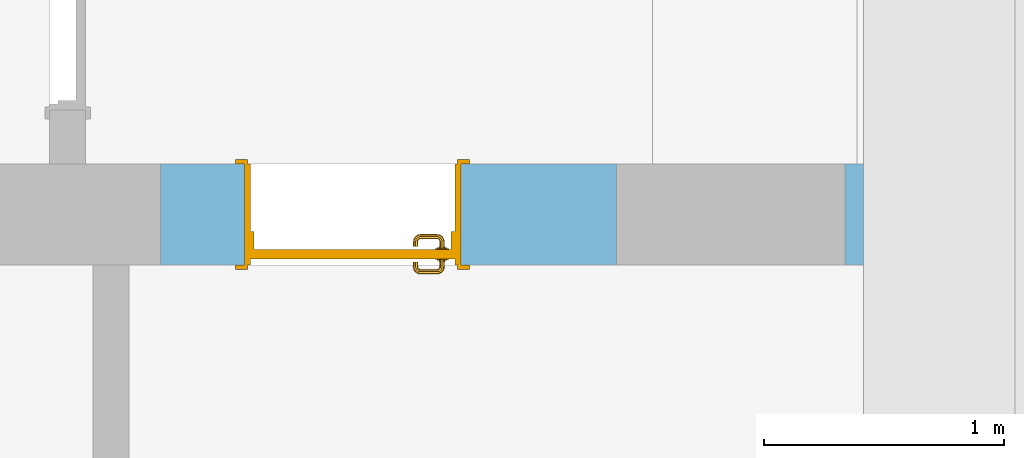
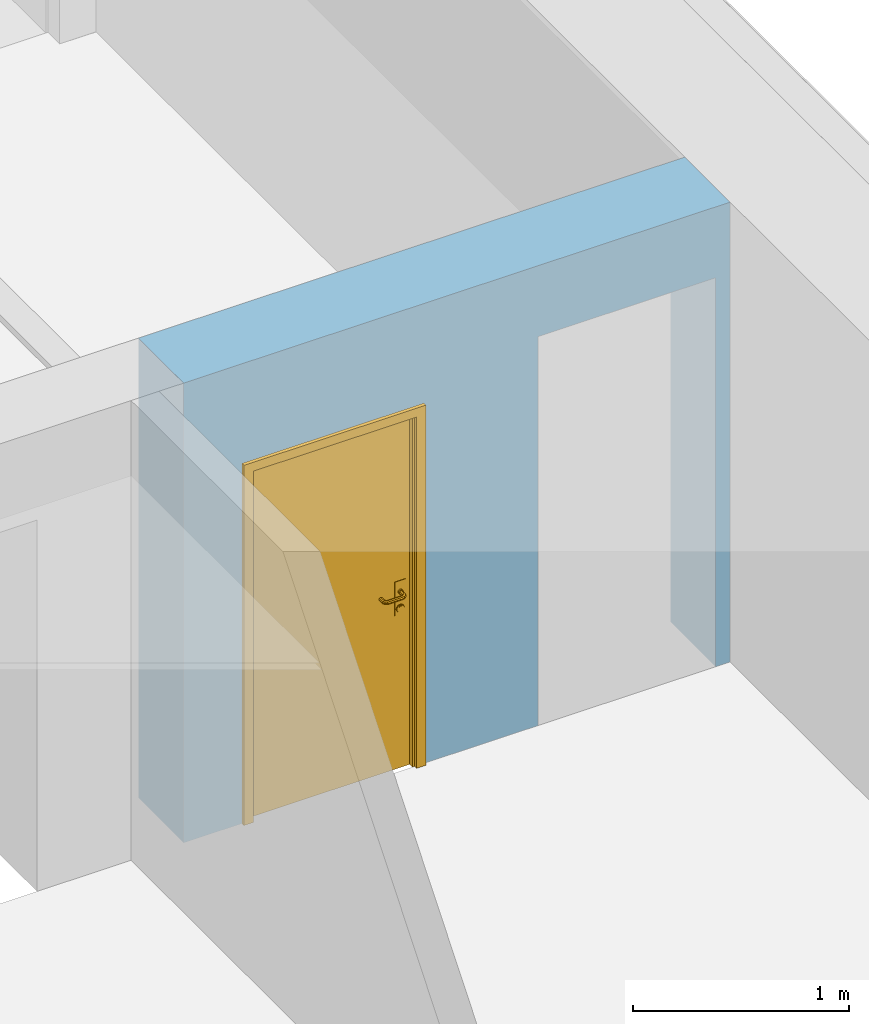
# One storey, part 60 of 127: 1 door, 1 opening, plus 1 element that does not belong to this part.
"""IFC2X3 building model written with IfcOpenShell, lengths in millimetres."""

from ifc_helpers import new_model, entity, si_unit, converted_unit, derived_unit, money_unit, direction, frame, origin_with_axes, origin_2d_with_axis, place, context, subcontext, project, spatial, polyline, rectangle, outline, extrude, boolean, open_shell, faceted_brep, surface_model, material, type_object, element, fill, save


model = new_model("IFC2X3")

# Units and contexts
model_context = context("Model", 3, precision=1e-05, world=origin_with_axes(), true_north=direction((0.0, 1.0)))
body_context = subcontext(model_context, "Body", "Model", "MODEL_VIEW")
ifc_project = project(units=[si_unit("LENGTHUNIT", "METRE", prefix="MILLI"), si_unit("AREAUNIT", "SQUARE_METRE"), si_unit("VOLUMEUNIT", "CUBIC_METRE"), converted_unit("PLANEANGLEUNIT", "DEGREE", entity("IfcPlaneAngleMeasure", 0.0174532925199), si_unit("PLANEANGLEUNIT", "RADIAN"), dimensions=[0, 0, 0, 0, 0, 0, 0]), si_unit("SOLIDANGLEUNIT", "STERADIAN"), money_unit("EUR"), converted_unit("TIMEUNIT", "Year", entity("IfcTimeMeasure", 31556926.0), si_unit("TIMEUNIT", "SECOND"), dimensions=[0, 0, 1, 0, 0, 0, 0]), si_unit("MASSUNIT", "GRAM", prefix="KILO"), si_unit("THERMODYNAMICTEMPERATUREUNIT", "DEGREE_CELSIUS"), si_unit("LUMINOUSINTENSITYUNIT", "LUMEN"), si_unit("ENERGYUNIT", "JOULE", prefix="MEGA"), derived_unit("THERMALCONDUCTANCEUNIT", [(si_unit("POWERUNIT", "WATT"), 1), (si_unit("LENGTHUNIT", "METRE"), -1), (si_unit("THERMODYNAMICTEMPERATUREUNIT", "KELVIN"), -1)]), derived_unit("SPECIFICHEATCAPACITYUNIT", [(si_unit("ENERGYUNIT", "JOULE"), 1), (si_unit("MASSUNIT", "GRAM", prefix="KILO"), -1), (si_unit("THERMODYNAMICTEMPERATUREUNIT", "KELVIN"), -1)]), derived_unit("MASSDENSITYUNIT", [(si_unit("MASSUNIT", "GRAM", prefix="KILO"), 1), (si_unit("VOLUMEUNIT", "CUBIC_METRE"), -1)])], contexts=[model_context])

# Site, building, storey
site_placement = place(None, origin_with_axes())
site = spatial("IfcSite", under=ifc_project, at=site_placement, Name="Site", CompositionType="ELEMENT")
building_placement = place(site_placement, origin_with_axes())
building = spatial("IfcBuilding", under=site, at=building_placement, Name="Building", CompositionType="ELEMENT")
storey_placement = place(building_placement, origin_with_axes())
storey = spatial("IfcBuildingStorey", under=building, at=storey_placement, Name="1 KORRUS", CompositionType="ELEMENT", Elevation=0.0)

# Wall, opening, door
ifc_material = material(Name="Kivi -Ol.Olev Konstruktsioon")
wall_type = type_object("IfcWallType", Name="SW - 022", PredefinedType="NOTDEFINED")
wall_placement = place(storey_placement, frame((43567.7374192, 65636.3690561, 0.0), z_axis=(0.0, 0.0, 1.0), x_axis=(-1.0, 0.0, 0.0)))
wall = element("IfcWall", 1, at=wall_placement, inside=storey, type_object=wall_type, material=ifc_material, Name="ol.olev ss 420", context=body_context, shape_type="CSG", body=[
    boolean("DIFFERENCE", boolean("DIFFERENCE", extrude(outline(polyline([(-170.001301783, 0.0), (3552.88674047, 0.0), (3552.88674047, 420.0), (-170.001301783, 420.0), (-170.001301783, 0.0)])), origin_with_axes(), (0.0, 0.0, 1.0), 2600.0), faceted_brep([(1657.27493251, -1.81898940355e-09, 0.0), (1657.27493251, -1.81898940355e-09, 2200.0), (707.274932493, -1.81898940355e-09, 2200.0), (707.274932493, -1.81898940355e-09, 0.0), (1657.27493251, 419.999999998, 0.0), (1657.27493251, 419.999999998, 2200.0), (707.274932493, 419.999999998, 2200.0), (707.274932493, 419.999999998, 0.0)], [[[0, 1, 2, 3]], [[1, 0, 4, 5]], [[2, 1, 5, 6]], [[3, 2, 6, 7]], [[4, 0, 3, 7]], [[5, 4, 7, 6]]])), faceted_brep([(630.000000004, 0.0, 0.0), (630.000000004, 0.0, 2600.0), (-170.001301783, 0.0, 2600.0), (-170.001301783, 0.0, 0.0), (629.998698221, 420.0, 2600.0), (629.998698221, 420.0, 0.0), (-170.001301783, 420.0, 2600.0), (-170.001301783, 420.0, 0.0)], [[[0, 1, 2, 3]], [[4, 1, 0, 5]], [[1, 4, 6, 2]], [[6, 7, 3, 2]], [[5, 0, 3, 7]], [[4, 5, 7, 6]]])),
])
opening_placement = place(wall_placement, frame((2754.27520312, 0.0, 0.0), z_axis=(0.0, 0.0, 1.0), x_axis=(1.0, 0.0, 0.0)))
opening = element("IfcOpeningElement", 2, at=opening_placement, cuts=wall, Name="Siseuks * Door 22", context=body_context, shape_type="SweptSolid", body=[
    extrude(rectangle(XDim=900.0, YDim=2000.0, at=origin_2d_with_axis()), frame((0.0, 280.0, 1000.0), z_axis=(0.0, 1.0, 0.0), x_axis=(1.0, 0.0, 0.0)), (0.0, 0.0, -1.0), 700.0),
    extrude(rectangle(XDim=900.0, YDim=2000.0, at=origin_2d_with_axis()), frame((0.0, 280.0, 1000.0), z_axis=(0.0, -1.0, 0.0), x_axis=(1.0, 0.0, 0.0)), (0.0, 0.0, -1.0), 560.0),
    extrude(rectangle(XDim=974.0, YDim=2037.0, at=origin_2d_with_axis()), frame((0.0, 420.0, 1018.5), z_axis=(0.0, -1.0, 0.0), x_axis=(1.0, 0.0, 0.0)), (0.0, 0.0, -1.0), 700.0),
    extrude(rectangle(XDim=974.0, YDim=2037.0, at=origin_2d_with_axis()), frame((0.0, 0.0, 1018.5), z_axis=(0.0, 1.0, 0.0), x_axis=(1.0, 0.0, 0.0)), (0.0, 0.0, -1.0), 700.0),
])
door_style = type_object("IfcDoorStyle", Name="SU-A115   900×2\xa0000", ConstructionType="NOTDEFINED", OperationType="SINGLE_SWING_RIGHT", ParameterTakesPrecedence=False, Sizeable=False)
door_placement = place(opening_placement, frame((-450.0, 0.0, 0.0), z_axis=(0.0, 0.0, 1.0), x_axis=(1.0, 0.0, 0.0)))
door = element("IfcDoor", 3, at=door_placement, inside=storey, type_object=door_style, Name="Siseuks * Door 22", OverallHeight=2000.0, OverallWidth=900.0, context=body_context, shape_type="SurfaceModel", body=[
    faceted_brep([(0.0, 395.0, 0.0), (0.0, 420.0, 0.0), (25.0000000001, 420.0, 0.0), (25.0000000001, 395.0, 0.0), (0.0, 395.0, 2000.0), (0.0, 420.0, 2000.0), (25.0000000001, 420.0, 1975.0), (25.0000000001, 395.0, 1975.0)], [[[0, 1, 2, 3]], [[4, 5, 1, 0]], [[1, 5, 6, 2]], [[3, 2, 6, 7]], [[0, 3, 7, 4]], [[7, 6, 5, 4]]]),
    faceted_brep([(900.0, 395.0, 2000.0), (900.0, 420.0, 2000.0), (875.0, 420.0, 1975.0), (875.0, 395.0, 1975.0), (900.0, 395.0, 0.0), (900.0, 420.0, 0.0), (875.0, 420.0, 0.0), (875.0, 395.0, 0.0)], [[[0, 1, 2, 3]], [[4, 5, 1, 0]], [[1, 5, 6, 2]], [[3, 2, 6, 7]], [[0, 3, 7, 4]], [[7, 6, 5, 4]]]),
    faceted_brep([(25.0000000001, 395.0, 1975.0), (25.0000000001, 420.0, 1975.0), (875.0, 420.0, 1975.0), (875.0, 395.0, 1975.0), (0.0, 395.0, 2000.0), (0.0, 420.0, 2000.0), (900.0, 420.0, 2000.0), (900.0, 395.0, 2000.0)], [[[0, 1, 2, 3]], [[4, 5, 1, 0]], [[1, 5, 6, 2]], [[3, 2, 6, 7]], [[0, 3, 7, 4]], [[7, 6, 5, 4]]]),
    faceted_brep([(-36.9999999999, 439.0, 0.0), (13.0, 439.0, 0.0), (13.0, 420.0, 0.0), (-36.9999999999, 420.0, 0.0), (-36.9999999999, 439.0, 2037.0), (13.0, 439.0, 1987.0), (13.0, 420.0, 1987.0), (-36.9999999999, 420.0, 2037.0)], [[[0, 1, 2, 3]], [[0, 4, 5, 1]], [[1, 5, 6, 2]], [[3, 2, 6, 7]], [[4, 0, 3, 7]], [[5, 4, 7, 6]]]),
    faceted_brep([(937.0, 439.0, 2037.0), (887.0, 439.0, 1987.0), (887.0, 420.0, 1987.0), (937.0, 420.0, 2037.0), (937.0, 439.0, 0.0), (887.0, 439.0, 0.0), (887.0, 420.0, 0.0), (937.0, 420.0, 0.0)], [[[0, 1, 2, 3]], [[0, 4, 5, 1]], [[1, 5, 6, 2]], [[3, 2, 6, 7]], [[4, 0, 3, 7]], [[5, 4, 7, 6]]]),
    faceted_brep([(-36.9999999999, 439.0, 2037.0), (13.0, 439.0, 1987.0), (13.0, 420.0, 1987.0), (-36.9999999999, 420.0, 2037.0), (937.0, 439.0, 2037.0), (887.0, 439.0, 1987.0), (887.0, 420.0, 1987.0), (937.0, 420.0, 2037.0)], [[[0, 1, 2, 3]], [[0, 4, 5, 1]], [[1, 5, 6, 2]], [[3, 2, 6, 7]], [[4, 0, 3, 7]], [[5, 4, 7, 6]]]),
    faceted_brep([(0.0, 280.000000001, 0.0), (25.0000000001, 280.000000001, 0.0), (25.0000000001, 0.0, 0.0), (0.0, 0.0, 0.0), (0.0, 280.000000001, 2000.0), (25.0000000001, 280.000000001, 1975.0), (25.0000000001, 0.0, 1975.0), (0.0, 0.0, 2000.0)], [[[0, 1, 2, 3]], [[0, 4, 5, 1]], [[1, 5, 6, 2]], [[3, 2, 6, 7]], [[4, 0, 3, 7]], [[5, 4, 7, 6]]]),
    faceted_brep([(900.0, 280.000000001, 2000.0), (875.0, 280.000000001, 1975.0), (875.0, 0.0, 1975.0), (900.0, 0.0, 2000.0), (900.0, 280.000000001, 0.0), (875.0, 280.000000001, 0.0), (875.0, 0.0, 0.0), (900.0, 0.0, 0.0)], [[[0, 1, 2, 3]], [[0, 4, 5, 1]], [[1, 5, 6, 2]], [[3, 2, 6, 7]], [[4, 0, 3, 7]], [[5, 4, 7, 6]]]),
    faceted_brep([(0.0, 280.000000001, 2000.0), (25.0000000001, 280.000000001, 1975.0), (25.0000000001, 0.0, 1975.0), (0.0, 0.0, 2000.0), (900.0, 280.000000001, 2000.0), (875.0, 280.000000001, 1975.0), (875.0, 0.0, 1975.0), (900.0, 0.0, 2000.0)], [[[0, 1, 2, 3]], [[0, 4, 5, 1]], [[1, 5, 6, 2]], [[3, 2, 6, 7]], [[4, 0, 3, 7]], [[5, 4, 7, 6]]]),
    faceted_brep([(-36.9999999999, -18.9999999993, 0.0), (-36.9999999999, 0.0, 0.0), (13.0, 0.0, 0.0), (13.0, -18.9999999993, 0.0), (-36.9999999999, -18.9999999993, 2037.0), (-36.9999999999, 0.0, 2037.0), (13.0, 0.0, 1987.0), (13.0, -18.9999999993, 1987.0)], [[[0, 1, 2, 3]], [[4, 5, 1, 0]], [[1, 5, 6, 2]], [[3, 2, 6, 7]], [[0, 3, 7, 4]], [[7, 6, 5, 4]]]),
    faceted_brep([(937.0, -18.9999999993, 2037.0), (937.0, 0.0, 2037.0), (887.0, 0.0, 1987.0), (887.0, -18.9999999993, 1987.0), (937.0, -18.9999999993, 0.0), (937.0, 0.0, 0.0), (887.0, 0.0, 0.0), (887.0, -18.9999999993, 0.0)], [[[0, 1, 2, 3]], [[4, 5, 1, 0]], [[1, 5, 6, 2]], [[3, 2, 6, 7]], [[0, 3, 7, 4]], [[7, 6, 5, 4]]]),
    faceted_brep([(-36.9999999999, -18.9999999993, 2037.0), (-36.9999999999, 0.0, 2037.0), (13.0, 0.0, 1987.0), (13.0, -18.9999999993, 1987.0), (937.0, -18.9999999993, 2037.0), (937.0, 0.0, 2037.0), (887.0, 0.0, 1987.0), (887.0, -18.9999999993, 1987.0)], [[[0, 1, 2, 3]], [[4, 5, 1, 0]], [[1, 5, 6, 2]], [[3, 2, 6, 7]], [[0, 3, 7, 4]], [[7, 6, 5, 4]]]),
    faceted_brep([(40.0000000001, 355.0, 0.0), (40.0000000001, 355.0, 1960.0), (40.0000000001, 280.000000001, 1960.0), (40.0000000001, 280.000000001, 0.0), (28.0, 355.0, 1960.0), (28.0, 355.0, 0.0), (28.0, 395.0, 1960.0), (0.0, 395.0, 1960.0), (0.0, 280.000000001, 1960.0), (0.0, 280.000000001, 0.0), (0.0, 395.0, 0.0), (28.0, 395.0, 0.0)], [[[0, 1, 2, 3]], [[4, 1, 0, 5]], [[4, 6, 7, 8, 2, 1]], [[3, 2, 8, 9]], [[5, 0, 3, 9, 10, 11]], [[6, 4, 5, 11]], [[6, 11, 10, 7]], [[10, 9, 8, 7]]]),
    faceted_brep([(872.0, 355.0, 1960.0), (860.0, 355.0, 1960.0), (860.0, 280.000000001, 1960.0), (900.0, 280.000000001, 1960.0), (900.0, 395.0, 1960.0), (872.0, 395.0, 1960.0), (872.0, 355.0, 0.0), (860.0, 355.0, 0.0), (860.0, 280.000000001, 0.0), (900.0, 280.000000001, 0.0), (900.0, 395.0, 0.0), (872.0, 395.0, 0.0)], [[[0, 1, 2, 3, 4, 5]], [[1, 0, 6, 7]], [[1, 7, 8, 2]], [[3, 2, 8, 9]], [[4, 3, 9, 10]], [[11, 5, 4, 10]], [[0, 5, 11, 6]], [[6, 11, 10, 9, 8, 7]]]),
    faceted_brep([(28.0, 395.0, 1972.0), (28.0, 395.0, 1960.0), (0.0, 395.0, 1960.0), (0.0, 395.0, 2000.0), (900.0, 395.0, 2000.0), (900.0, 395.0, 1960.0), (872.0, 395.0, 1960.0), (872.0, 395.0, 1972.0), (28.0, 355.0, 1972.0), (28.0, 355.0, 1960.0), (40.0000000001, 355.0, 1960.0), (40.0000000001, 280.000000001, 1960.0), (0.0, 280.000000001, 1960.0), (0.0, 280.000000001, 2000.0), (900.0, 280.000000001, 2000.0), (900.0, 280.000000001, 1960.0), (872.0, 355.0, 1960.0), (860.0, 280.000000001, 1960.0), (860.0, 355.0, 1960.0), (872.0, 355.0, 1972.0)], [[[0, 1, 2, 3, 4, 5, 6, 7]], [[1, 0, 8, 9]], [[9, 10, 11, 12, 2, 1]], [[2, 12, 13, 3]], [[3, 13, 14, 4]], [[4, 14, 15, 5]], [[16, 6, 5, 15, 17, 18]], [[7, 6, 16, 19]], [[0, 7, 19, 8]], [[16, 18, 10, 9, 8, 19]], [[10, 18, 17, 11]], [[17, 15, 14, 13, 12, 11]]]),
    faceted_brep([(49.5000000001, 355.0, 1060.0), (49.5000000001, 352.000000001, 1060.0), (106.5, 352.000000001, 1060.0), (106.5, 355.0, 1060.0), (49.5000000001, 355.0, 870.0), (49.5000000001, 352.000000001, 870.0), (106.5, 352.000000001, 870.0), (106.5, 355.0, 870.0)], [[[0, 1, 2, 3]], [[4, 5, 1, 0]], [[1, 5, 6, 2]], [[3, 2, 6, 7]], [[0, 3, 7, 4]], [[7, 6, 5, 4]]]),
    surface_model("IfcShellBasedSurfaceModel", [(88.0000000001, 342.000000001, 1000.0), (88.0000000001, 322.984914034, 1000.0), (85.0710678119, 322.696439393, 992.928932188), (85.0710678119, 342.000000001, 992.928932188), (85.0710678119, 342.000000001, 1007.07106781), (85.0710678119, 322.696439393, 1007.07106781), (88.9422033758, 318.248137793, 1000.0), (86.1832095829, 317.105325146, 992.928932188), (78.0000000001, 322.0, 990.0), (78.0000000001, 342.000000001, 990.0), (78.0000000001, 342.000000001, 1010.0), (78.0000000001, 322.0, 1010.0), (86.1832095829, 317.105325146, 1007.07106781), (91.0674625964, 315.067462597, 1000.0), (88.9558201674, 312.955820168, 992.928932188), (79.5224093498, 314.346331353, 990.0), (70.9289321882, 321.303560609, 992.928932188), (70.9289321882, 342.000000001, 992.928932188), (70.9289321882, 342.000000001, 1007.07106781), (70.9289321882, 321.303560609, 1007.07106781), (79.5224093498, 314.346331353, 1010.0), (88.9558201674, 312.955820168, 1007.07106781), (94.2481377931, 312.942203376, 1000.0), (93.1053251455, 310.183209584, 992.928932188), (83.8578643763, 307.857864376, 990.0), (72.8616091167, 311.58733756, 992.928932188), (68.0000000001, 321.015085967, 1000.0), (68.0000000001, 342.000000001, 1000.0), (72.8616091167, 311.58733756, 1007.07106781), (83.8578643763, 307.857864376, 1010.0), (93.1053251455, 310.183209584, 1007.07106781), (98.9849140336, 312.000000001, 1000.0), (98.696439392, 309.071067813, 992.928932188), (90.3463313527, 303.52240935, 990.0), (78.7599085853, 302.759908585, 992.928932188), (70.1026153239, 310.444524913, 1000.0), (78.7599085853, 302.759908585, 1007.07106781), (90.3463313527, 303.52240935, 1010.0), (98.696439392, 309.071067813, 1007.07106781), (167.015085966, 312.000000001, 1000.0), (167.303560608, 309.071067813, 992.928932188), (98.0000000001, 302.000000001, 990.0), (87.58733756, 296.861609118, 992.928932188), (76.6482661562, 300.648266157, 1000.0), (87.58733756, 296.861609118, 1007.07106781), (98.0000000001, 302.000000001, 1010.0), (167.303560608, 309.071067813, 1007.07106781), (171.751862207, 312.942203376, 1000.0), (172.894674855, 310.183209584, 992.928932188), (168.0, 302.000000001, 990.0), (97.303560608, 294.928932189, 992.928932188), (86.4445249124, 294.102615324, 1000.0), (97.303560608, 294.928932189, 1007.07106781), (168.0, 302.000000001, 1010.0), (172.894674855, 310.183209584, 1007.07106781), (174.932537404, 315.067462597, 1000.0), (177.044179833, 312.955820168, 992.928932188), (175.653668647, 303.52240935, 990.0), (168.696439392, 294.928932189, 992.928932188), (97.0150859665, 292.0, 1000.0), (168.696439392, 294.928932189, 1007.07106781), (175.653668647, 303.52240935, 1010.0), (177.044179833, 312.955820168, 1007.07106781), (177.057796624, 318.248137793, 1000.0), (179.816790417, 317.105325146, 992.928932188), (182.142135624, 307.857864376, 990.0), (178.41266244, 296.861609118, 992.928932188), (168.984914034, 292.0, 1000.0), (178.41266244, 296.861609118, 1007.07106781), (182.142135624, 307.857864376, 1010.0), (179.816790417, 317.105325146, 1007.07106781), (178.0, 322.984914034, 1000.0), (180.928932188, 322.696439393, 992.928932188), (186.47759065, 314.346331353, 990.0), (187.240091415, 302.759908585, 992.928932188), (179.555475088, 294.102615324, 1000.0), (187.240091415, 302.759908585, 1007.07106781), (186.47759065, 314.346331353, 1010.0), (180.928932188, 322.696439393, 1007.07106781), (178.0, 342.000000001, 1000.0), (180.928932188, 342.000000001, 992.928932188), (188.0, 322.0, 990.0), (193.138390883, 311.58733756, 992.928932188), (189.351733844, 300.648266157, 1000.0), (193.138390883, 311.58733756, 1007.07106781), (188.0, 322.0, 1010.0), (180.928932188, 342.000000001, 1007.07106781), (188.0, 342.000000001, 1010.0), (195.071067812, 342.000000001, 1007.07106781), (198.0, 342.000000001, 1000.0), (195.071067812, 342.000000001, 992.928932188), (188.0, 342.000000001, 990.0), (195.071067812, 321.303560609, 992.928932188), (195.897384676, 310.444524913, 1000.0), (195.071067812, 321.303560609, 1007.07106781), (198.0, 321.015085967, 1000.0)], [open_shell([[[0, 1, 2, 3]], [[4, 5, 1, 0]], [[1, 6, 7, 2]], [[3, 2, 8, 9]], [[10, 11, 5, 4]], [[5, 12, 6, 1]], [[6, 13, 14, 7]], [[2, 7, 15, 8]], [[9, 8, 16, 17]], [[18, 19, 11, 10]], [[11, 20, 12, 5]], [[12, 21, 13, 6]], [[13, 22, 23, 14]], [[7, 14, 24, 15]], [[8, 15, 25, 16]], [[17, 16, 26, 27]], [[27, 26, 19, 18]], [[19, 28, 20, 11]], [[20, 29, 21, 12]], [[21, 30, 22, 13]], [[22, 31, 32, 23]], [[14, 23, 33, 24]], [[15, 24, 34, 25]], [[16, 25, 35, 26]], [[26, 35, 28, 19]], [[28, 36, 29, 20]], [[29, 37, 30, 21]], [[30, 38, 31, 22]], [[31, 39, 40, 32]], [[23, 32, 41, 33]], [[24, 33, 42, 34]], [[25, 34, 43, 35]], [[35, 43, 36, 28]], [[36, 44, 37, 29]], [[37, 45, 38, 30]], [[38, 46, 39, 31]], [[39, 47, 48, 40]], [[32, 40, 49, 41]], [[33, 41, 50, 42]], [[34, 42, 51, 43]], [[43, 51, 44, 36]], [[44, 52, 45, 37]], [[45, 53, 46, 38]], [[46, 54, 47, 39]], [[47, 55, 56, 48]], [[40, 48, 57, 49]], [[41, 49, 58, 50]], [[42, 50, 59, 51]], [[51, 59, 52, 44]], [[52, 60, 53, 45]], [[53, 61, 54, 46]], [[54, 62, 55, 47]], [[55, 63, 64, 56]], [[48, 56, 65, 57]], [[49, 57, 66, 58]], [[50, 58, 67, 59]], [[59, 67, 60, 52]], [[60, 68, 61, 53]], [[61, 69, 62, 54]], [[62, 70, 63, 55]], [[63, 71, 72, 64]], [[56, 64, 73, 65]], [[57, 65, 74, 66]], [[58, 66, 75, 67]], [[67, 75, 68, 60]], [[68, 76, 69, 61]], [[69, 77, 70, 62]], [[70, 78, 71, 63]], [[71, 79, 80, 72]], [[64, 72, 81, 73]], [[65, 73, 82, 74]], [[66, 74, 83, 75]], [[75, 83, 76, 68]], [[76, 84, 77, 69]], [[77, 85, 78, 70]], [[78, 86, 79, 71]], [[79, 86, 87, 88, 89, 90, 91, 80]], [[72, 80, 91, 81]], [[73, 81, 92, 82]], [[74, 82, 93, 83]], [[83, 93, 84, 76]], [[84, 94, 85, 77]], [[85, 87, 86, 78]], [[94, 88, 87, 85]], [[95, 89, 88, 94]], [[92, 90, 89, 95]], [[81, 91, 90, 92]], [[82, 92, 95, 93]], [[93, 95, 94, 84]]])]),
    faceted_brep([(88.3923048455, 342.000000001, 994.0), (89.2583302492, 352.000000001, 993.5), (91.0, 352.000000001, 1000.0), (90.0, 342.000000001, 1000.0), (84.0000000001, 342.000000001, 989.607695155), (84.5, 352.000000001, 988.741669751), (78.0000000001, 352.000000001, 987.0), (71.5, 352.000000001, 988.741669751), (66.7416697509, 352.000000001, 993.5), (65.0000000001, 352.000000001, 1000.0), (66.7416697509, 352.000000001, 1006.5), (71.5, 352.000000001, 1011.25833025), (78.0000000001, 352.000000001, 1013.0), (84.5, 352.000000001, 1011.25833025), (89.2583302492, 352.000000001, 1006.5), (88.3923048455, 342.000000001, 1006.0), (84.0000000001, 342.000000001, 1010.39230485), (78.0000000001, 342.000000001, 1012.0), (72.0, 342.000000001, 1010.39230485), (67.6076951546, 342.000000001, 1006.0), (66.0, 342.000000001, 1000.0), (67.6076951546, 342.000000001, 994.0), (72.0, 342.000000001, 989.607695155), (78.0000000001, 342.000000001, 988.0)], [[[0, 1, 2, 3]], [[4, 5, 1, 0]], [[2, 1, 5, 6, 7, 8, 9, 10, 11, 12, 13, 14]], [[3, 2, 14, 15]], [[3, 15, 16, 17, 18, 19, 20, 21, 22, 23, 4, 0]], [[23, 6, 5, 4]], [[22, 7, 6, 23]], [[21, 8, 7, 22]], [[20, 9, 8, 21]], [[19, 10, 9, 20]], [[18, 11, 10, 19]], [[17, 12, 11, 18]], [[16, 13, 12, 17]], [[15, 14, 13, 16]]]),
    faceted_brep([(95.3205080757, 348.000000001, 895.0), (97.0525588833, 352.000000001, 894.0), (100.0, 352.000000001, 905.0), (98.0000000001, 348.000000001, 905.0), (88.0000000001, 348.000000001, 887.679491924), (89.0000000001, 352.000000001, 885.947441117), (78.0000000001, 352.000000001, 883.0), (67.0, 352.000000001, 885.947441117), (58.9474411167, 352.000000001, 894.0), (56.0, 352.000000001, 905.0), (58.9474411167, 352.000000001, 916.0), (67.0, 352.000000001, 924.052558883), (78.0000000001, 352.000000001, 927.0), (89.0000000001, 352.000000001, 924.052558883), (97.0525588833, 352.000000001, 916.0), (95.3205080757, 348.000000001, 915.0), (88.0000000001, 348.000000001, 922.320508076), (78.0000000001, 348.000000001, 925.0), (68.0000000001, 348.000000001, 922.320508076), (60.6794919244, 348.000000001, 915.0), (58.0, 348.000000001, 905.0), (60.6794919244, 348.000000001, 895.0), (68.0000000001, 348.000000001, 887.679491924), (78.0000000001, 348.000000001, 885.0)], [[[0, 1, 2, 3]], [[4, 5, 1, 0]], [[2, 1, 5, 6, 7, 8, 9, 10, 11, 12, 13, 14]], [[3, 2, 14, 15]], [[3, 15, 16, 17, 18, 19, 20, 21, 22, 23, 4, 0]], [[23, 6, 5, 4]], [[22, 7, 6, 23]], [[21, 8, 7, 22]], [[20, 9, 8, 21]], [[19, 10, 9, 20]], [[18, 11, 10, 19]], [[17, 12, 11, 18]], [[16, 13, 12, 17]], [[15, 14, 13, 16]]]),
    faceted_brep([(82.9497474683, 346.0, 909.050252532), (83.6568542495, 348.000000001, 908.343145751), (86.0, 348.000000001, 914.0), (85.0, 346.0, 914.0), (78.0000000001, 346.0, 907.0), (78.0000000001, 348.000000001, 906.0), (72.3431457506, 348.000000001, 908.343145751), (70.0000000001, 348.000000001, 914.0), (72.3431457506, 348.000000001, 919.656854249), (78.0000000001, 348.000000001, 922.0), (83.6568542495, 348.000000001, 919.656854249), (82.9497474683, 346.0, 918.949747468), (78.0000000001, 346.0, 921.0), (73.0502525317, 346.0, 918.949747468), (71.0, 346.0, 914.0), (73.0502525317, 346.0, 909.050252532)], [[[0, 1, 2, 3]], [[4, 5, 1, 0]], [[2, 1, 5, 6, 7, 8, 9, 10]], [[3, 2, 10, 11]], [[3, 11, 12, 13, 14, 15, 4, 0]], [[15, 6, 5, 4]], [[14, 7, 6, 15]], [[13, 8, 7, 14]], [[12, 9, 8, 13]], [[11, 10, 9, 12]]]),
    faceted_brep([(49.5000000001, 395.0, 1060.0), (106.5, 395.0, 1060.0), (106.5, 398.0, 1060.0), (49.5000000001, 398.0, 1060.0), (49.5000000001, 395.0, 870.0), (106.5, 395.0, 870.0), (106.5, 398.0, 870.0), (49.5000000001, 398.0, 870.0)], [[[0, 1, 2, 3]], [[0, 4, 5, 1]], [[1, 5, 6, 2]], [[3, 2, 6, 7]], [[4, 0, 3, 7]], [[5, 4, 7, 6]]]),
    surface_model("IfcShellBasedSurfaceModel", [(88.0000000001, 408.0, 1000.0), (85.0710678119, 408.0, 992.928932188), (85.0710678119, 427.303560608, 992.928932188), (88.0000000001, 427.015085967, 1000.0), (78.0000000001, 408.0, 990.0), (78.0000000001, 428.000000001, 990.0), (86.1832095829, 432.894674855, 992.928932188), (88.9422033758, 431.751862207, 1000.0), (85.0710678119, 408.0, 1007.07106781), (85.0710678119, 427.303560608, 1007.07106781), (70.9289321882, 408.0, 992.928932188), (70.9289321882, 428.696439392, 992.928932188), (79.5224093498, 435.653668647, 990.0), (88.9558201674, 437.044179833, 992.928932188), (91.0674625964, 434.932537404, 1000.0), (86.1832095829, 432.894674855, 1007.07106781), (78.0000000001, 408.0, 1010.0), (78.0000000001, 428.000000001, 1010.0), (68.0000000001, 408.0, 1000.0), (68.0000000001, 428.984914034, 1000.0), (72.8616091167, 438.412662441, 992.928932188), (83.8578643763, 442.142135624, 990.0), (93.1053251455, 439.816790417, 992.928932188), (94.2481377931, 437.057796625, 1000.0), (88.9558201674, 437.044179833, 1007.07106781), (79.5224093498, 435.653668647, 1010.0), (70.9289321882, 408.0, 1007.07106781), (70.9289321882, 428.696439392, 1007.07106781), (70.1026153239, 439.555475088, 1000.0), (78.7599085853, 447.240091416, 992.928932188), (90.3463313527, 446.477590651, 990.0), (98.696439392, 440.928932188, 992.928932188), (98.9849140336, 438.0, 1000.0), (93.1053251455, 439.816790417, 1007.07106781), (83.8578643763, 442.142135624, 1010.0), (72.8616091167, 438.412662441, 1007.07106781), (76.6482661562, 449.351733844, 1000.0), (87.58733756, 453.138390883, 992.928932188), (98.0000000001, 448.0, 990.0), (167.303560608, 440.928932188, 992.928932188), (167.015085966, 438.0, 1000.0), (98.696439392, 440.928932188, 1007.07106781), (90.3463313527, 446.477590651, 1010.0), (78.7599085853, 447.240091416, 1007.07106781), (86.4445249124, 455.897384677, 1000.0), (97.303560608, 455.071067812, 992.928932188), (168.0, 448.0, 990.0), (172.894674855, 439.816790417, 992.928932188), (171.751862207, 437.057796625, 1000.0), (167.303560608, 440.928932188, 1007.07106781), (98.0000000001, 448.0, 1010.0), (87.58733756, 453.138390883, 1007.07106781), (97.0150859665, 458.000000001, 1000.0), (168.696439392, 455.071067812, 992.928932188), (175.653668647, 446.477590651, 990.0), (177.044179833, 437.044179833, 992.928932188), (174.932537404, 434.932537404, 1000.0), (172.894674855, 439.816790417, 1007.07106781), (168.0, 448.0, 1010.0), (97.303560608, 455.071067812, 1007.07106781), (168.984914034, 458.000000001, 1000.0), (178.41266244, 453.138390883, 992.928932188), (182.142135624, 442.142135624, 990.0), (179.816790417, 432.894674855, 992.928932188), (177.057796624, 431.751862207, 1000.0), (177.044179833, 437.044179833, 1007.07106781), (175.653668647, 446.477590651, 1010.0), (168.696439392, 455.071067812, 1007.07106781), (179.555475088, 455.897384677, 1000.0), (187.240091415, 447.240091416, 992.928932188), (186.47759065, 435.653668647, 990.0), (180.928932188, 427.303560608, 992.928932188), (178.0, 427.015085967, 1000.0), (179.816790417, 432.894674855, 1007.07106781), (182.142135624, 442.142135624, 1010.0), (178.41266244, 453.138390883, 1007.07106781), (189.351733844, 449.351733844, 1000.0), (193.138390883, 438.412662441, 992.928932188), (188.0, 428.000000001, 990.0), (180.928932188, 408.0, 992.928932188), (178.0, 408.0, 1000.0), (180.928932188, 427.303560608, 1007.07106781), (186.47759065, 435.653668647, 1010.0), (187.240091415, 447.240091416, 1007.07106781), (195.897384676, 439.555475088, 1000.0), (195.071067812, 428.696439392, 992.928932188), (188.0, 408.0, 990.0), (195.071067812, 408.0, 992.928932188), (198.0, 408.0, 1000.0), (195.071067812, 408.0, 1007.07106781), (188.0, 408.0, 1010.0), (180.928932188, 408.0, 1007.07106781), (188.0, 428.000000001, 1010.0), (193.138390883, 438.412662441, 1007.07106781), (198.0, 428.984914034, 1000.0), (195.071067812, 428.696439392, 1007.07106781)], [open_shell([[[0, 1, 2, 3]], [[1, 4, 5, 2]], [[3, 2, 6, 7]], [[8, 0, 3, 9]], [[4, 10, 11, 5]], [[2, 5, 12, 6]], [[7, 6, 13, 14]], [[9, 3, 7, 15]], [[16, 8, 9, 17]], [[10, 18, 19, 11]], [[5, 11, 20, 12]], [[6, 12, 21, 13]], [[14, 13, 22, 23]], [[15, 7, 14, 24]], [[17, 9, 15, 25]], [[26, 16, 17, 27]], [[18, 26, 27, 19]], [[11, 19, 28, 20]], [[12, 20, 29, 21]], [[13, 21, 30, 22]], [[23, 22, 31, 32]], [[24, 14, 23, 33]], [[25, 15, 24, 34]], [[27, 17, 25, 35]], [[19, 27, 35, 28]], [[20, 28, 36, 29]], [[21, 29, 37, 30]], [[22, 30, 38, 31]], [[32, 31, 39, 40]], [[33, 23, 32, 41]], [[34, 24, 33, 42]], [[35, 25, 34, 43]], [[28, 35, 43, 36]], [[29, 36, 44, 37]], [[30, 37, 45, 38]], [[31, 38, 46, 39]], [[40, 39, 47, 48]], [[41, 32, 40, 49]], [[42, 33, 41, 50]], [[43, 34, 42, 51]], [[36, 43, 51, 44]], [[37, 44, 52, 45]], [[38, 45, 53, 46]], [[39, 46, 54, 47]], [[48, 47, 55, 56]], [[49, 40, 48, 57]], [[50, 41, 49, 58]], [[51, 42, 50, 59]], [[44, 51, 59, 52]], [[45, 52, 60, 53]], [[46, 53, 61, 54]], [[47, 54, 62, 55]], [[56, 55, 63, 64]], [[57, 48, 56, 65]], [[58, 49, 57, 66]], [[59, 50, 58, 67]], [[52, 59, 67, 60]], [[53, 60, 68, 61]], [[54, 61, 69, 62]], [[55, 62, 70, 63]], [[64, 63, 71, 72]], [[65, 56, 64, 73]], [[66, 57, 65, 74]], [[67, 58, 66, 75]], [[60, 67, 75, 68]], [[61, 68, 76, 69]], [[62, 69, 77, 70]], [[63, 70, 78, 71]], [[72, 71, 79, 80]], [[73, 64, 72, 81]], [[74, 65, 73, 82]], [[75, 66, 74, 83]], [[68, 75, 83, 76]], [[69, 76, 84, 77]], [[70, 77, 85, 78]], [[71, 78, 86, 79]], [[80, 79, 86, 87, 88, 89, 90, 91]], [[81, 72, 80, 91]], [[82, 73, 81, 92]], [[83, 74, 82, 93]], [[76, 83, 93, 84]], [[77, 84, 94, 85]], [[78, 85, 87, 86]], [[85, 94, 88, 87]], [[94, 95, 89, 88]], [[95, 92, 90, 89]], [[92, 81, 91, 90]], [[93, 82, 92, 95]], [[84, 93, 95, 94]]])]),
    faceted_brep([(88.3923048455, 408.0, 994.0), (90.0, 408.0, 1000.0), (91.0, 398.0, 1000.0), (89.2583302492, 398.0, 993.5), (84.0000000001, 408.0, 989.607695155), (78.0000000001, 408.0, 988.0), (72.0, 408.0, 989.607695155), (67.6076951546, 408.0, 994.0), (66.0, 408.0, 1000.0), (67.6076951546, 408.0, 1006.0), (72.0, 408.0, 1010.39230485), (78.0000000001, 408.0, 1012.0), (84.0000000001, 408.0, 1010.39230485), (88.3923048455, 408.0, 1006.0), (89.2583302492, 398.0, 1006.5), (84.5, 398.0, 1011.25833025), (78.0000000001, 398.0, 1013.0), (71.5, 398.0, 1011.25833025), (66.7416697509, 398.0, 1006.5), (65.0000000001, 398.0, 1000.0), (66.7416697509, 398.0, 993.5), (71.5, 398.0, 988.741669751), (78.0000000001, 398.0, 987.0), (84.5, 398.0, 988.741669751)], [[[0, 1, 2, 3]], [[1, 0, 4, 5, 6, 7, 8, 9, 10, 11, 12, 13]], [[1, 13, 14, 2]], [[2, 14, 15, 16, 17, 18, 19, 20, 21, 22, 23, 3]], [[4, 0, 3, 23]], [[5, 4, 23, 22]], [[6, 5, 22, 21]], [[7, 6, 21, 20]], [[8, 7, 20, 19]], [[9, 8, 19, 18]], [[10, 9, 18, 17]], [[11, 10, 17, 16]], [[12, 11, 16, 15]], [[13, 12, 15, 14]]]),
    faceted_brep([(95.3205080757, 402.0, 895.0), (98.0000000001, 402.0, 905.0), (100.0, 398.0, 905.0), (97.0525588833, 398.0, 894.0), (88.0000000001, 402.0, 887.679491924), (78.0000000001, 402.0, 885.0), (68.0000000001, 402.0, 887.679491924), (60.6794919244, 402.0, 895.0), (58.0, 402.0, 905.0), (60.6794919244, 402.0, 915.0), (68.0000000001, 402.0, 922.320508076), (78.0000000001, 402.0, 925.0), (88.0000000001, 402.0, 922.320508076), (95.3205080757, 402.0, 915.0), (97.0525588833, 398.0, 916.0), (89.0000000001, 398.0, 924.052558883), (78.0000000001, 398.0, 927.0), (67.0, 398.0, 924.052558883), (58.9474411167, 398.0, 916.0), (56.0, 398.0, 905.0), (58.9474411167, 398.0, 894.0), (67.0, 398.0, 885.947441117), (78.0000000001, 398.0, 883.0), (89.0000000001, 398.0, 885.947441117)], [[[0, 1, 2, 3]], [[1, 0, 4, 5, 6, 7, 8, 9, 10, 11, 12, 13]], [[1, 13, 14, 2]], [[2, 14, 15, 16, 17, 18, 19, 20, 21, 22, 23, 3]], [[4, 0, 3, 23]], [[5, 4, 23, 22]], [[6, 5, 22, 21]], [[7, 6, 21, 20]], [[8, 7, 20, 19]], [[9, 8, 19, 18]], [[10, 9, 18, 17]], [[11, 10, 17, 16]], [[12, 11, 16, 15]], [[13, 12, 15, 14]]]),
    faceted_brep([(82.9497474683, 404.0, 909.050252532), (85.0, 404.0, 914.0), (86.0, 402.0, 914.0), (83.6568542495, 402.0, 908.343145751), (78.0000000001, 404.0, 907.0), (73.0502525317, 404.0, 909.050252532), (71.0, 404.0, 914.0), (73.0502525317, 404.0, 918.949747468), (78.0000000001, 404.0, 921.0), (82.9497474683, 404.0, 918.949747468), (83.6568542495, 402.0, 919.656854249), (78.0000000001, 402.0, 922.0), (72.3431457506, 402.0, 919.656854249), (70.0000000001, 402.0, 914.0), (72.3431457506, 402.0, 908.343145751), (78.0000000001, 402.0, 906.0)], [[[0, 1, 2, 3]], [[1, 0, 4, 5, 6, 7, 8, 9]], [[1, 9, 10, 2]], [[2, 10, 11, 12, 13, 14, 15, 3]], [[4, 0, 3, 15]], [[5, 4, 15, 14]], [[6, 5, 14, 13]], [[7, 6, 13, 12]], [[8, 7, 12, 11]], [[9, 8, 11, 10]]]),
    faceted_brep([(872.0, 395.0, 0.0), (872.0, 355.0, 0.0), (28.0, 355.0, 0.0), (28.0, 395.0, 0.0), (872.0, 395.0, 1972.0), (872.0, 355.0, 1972.0), (28.0, 355.0, 1972.0), (28.0, 395.0, 1972.0)], [[[0, 1, 2, 3]], [[4, 5, 1, 0]], [[1, 5, 6, 2]], [[3, 2, 6, 7]], [[0, 3, 7, 4]], [[7, 6, 5, 4]]]),
])
fill(opening, door)

save(model, "model.ifc")
